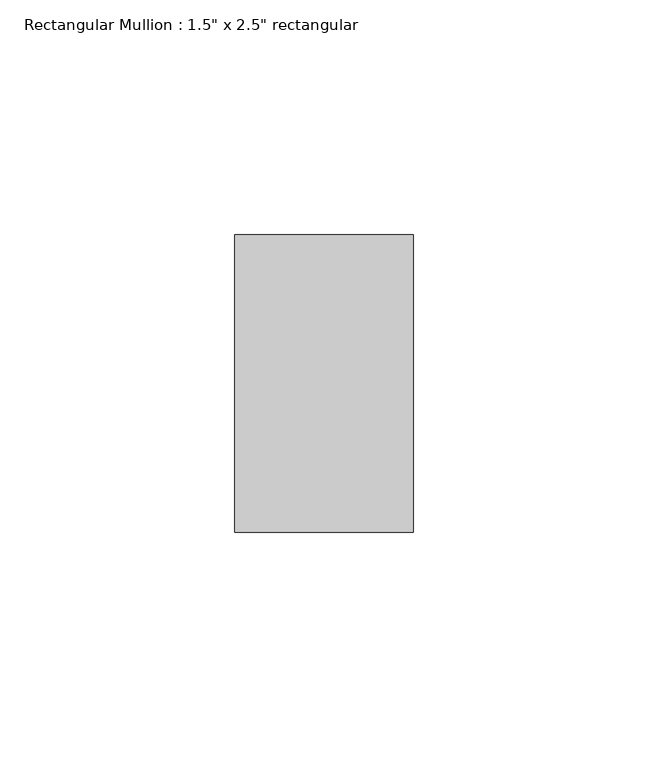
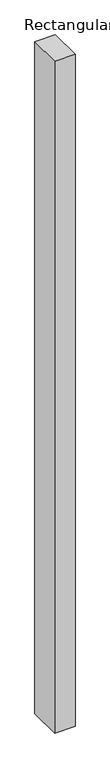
"""IFC4 building model written with IfcOpenShell, lengths in millimetres: member geometry."""

import ifcopenshell
import ifcopenshell.guid

model = None  # the IFC model being written
_history = None  # IfcOwnerHistory: only IFC2X3 demands one
_inside = {}  # id of a spatial element -> (the spatial element, [elements in it])
_under = {}  # id of a project, library or spatial element -> (it, [spatial elements below it])
_declared = {}  # id of a project -> (the project, [libraries it declares])
_typed = {}  # id of a type object -> (the type object, [elements of that type])
_made_of = {}  # id of a material, layer set ... -> (it, [elements and type objects made of it])


def new_model(schema):
    """Start an empty IFC model of exactly this schema.

    Asked for "IFC4X3", IfcOpenShell would pick the latest addendum, in which some entities
    have other attributes; the version numbers below select the first issue.
    IFC2X3 requires an IfcOwnerHistory on every rooted entity: one is made here for all.
    """
    global model, _history
    if schema == "IFC4X3":
        model = ifcopenshell.file(schema_version=(4, 3, 0, 0))
    else:
        model = ifcopenshell.file(schema=schema)
    _inside.clear()
    _under.clear()
    _declared.clear()
    _typed.clear()
    _made_of.clear()
    _history = None
    if model.schema == "IFC2X3":
        org = make("IfcOrganization", Name="unknown")
        user = make(
            "IfcPersonAndOrganization",
            ThePerson=make("IfcPerson", FamilyName="unknown"),
            TheOrganization=org,
        )
        app = make(
            "IfcApplication",
            ApplicationDeveloper=org,
            Version="unknown",
            ApplicationFullName="unknown",
            ApplicationIdentifier="unknown",
        )
        _history = make(
            "IfcOwnerHistory",
            OwningUser=user,
            OwningApplication=app,
            ChangeAction="ADDED",
            CreationDate=0,
        )
    return model


def make(cls, **values):
    """One entity of the class cls with the attributes given. An attribute that is None is left unset."""
    return model.create_entity(
        cls, **{name: value for name, value in values.items() if value is not None}
    )


def rooted(cls, **values):
    """An entity with a GlobalId (a new one), such as an element, a storey or a relation."""
    return make(cls, GlobalId=ifcopenshell.guid.new(), OwnerHistory=_history, **values)


def si_unit(unit_type, name, prefix=None):
    """IfcSIUnit, for example si_unit("LENGTHUNIT", "METRE", prefix="MILLI")."""
    return make("IfcSIUnit", UnitType=unit_type, Prefix=prefix, Name=name)


def assignment(units):
    """IfcUnitAssignment: the units of a project."""
    return None if units is None else make("IfcUnitAssignment", Units=units)


def point(xyz):
    """IfcCartesianPoint."""
    return None if xyz is None else make("IfcCartesianPoint", Coordinates=xyz)


def direction(xyz):
    """IfcDirection."""
    return None if xyz is None else make("IfcDirection", DirectionRatios=xyz)


def frame(location, z_axis=None, x_axis=None):
    """IfcAxis2Placement3D, a coordinate frame: its origin and axes. An axis left out is left unset."""
    return make(
        "IfcAxis2Placement3D",
        Location=point(location),
        Axis=direction(z_axis),
        RefDirection=direction(x_axis),
    )


def origin():
    """The frame at (0, 0, 0) with its axes left unset."""
    return frame((0.0, 0.0, 0.0))


def place(relative_to, where):
    """IfcLocalPlacement: puts the frame where relative to a parent placement (None: the world)."""
    return make(
        "IfcLocalPlacement", PlacementRelTo=relative_to, RelativePlacement=where
    )


def context(
    kind, dimensions, precision=None, world=None, true_north=None, identifier=None
):
    """IfcGeometricRepresentationContext, for example the 3D "Model" context."""
    return make(
        "IfcGeometricRepresentationContext",
        ContextIdentifier=identifier,
        ContextType=kind,
        CoordinateSpaceDimension=dimensions,
        Precision=precision,
        WorldCoordinateSystem=world,
        TrueNorth=true_north,
    )


def project(units=None, contexts=None):
    """IfcProject with its units and contexts."""
    return rooted(
        "IfcProject",
        Name="project",
        RepresentationContexts=contexts,
        UnitsInContext=assignment(units),
    )


def spatial(cls, under=None, at=None, **own):
    """A site, building, storey or space (cls), placed at a placement, below another one or the project."""
    s = rooted(cls, ObjectPlacement=at, **own)
    if under is not None:
        _under.setdefault(under.id(), (under, []))[1].append(s)
    return s


def polyline(points):
    """IfcPolyline through the points."""
    return make("IfcPolyline", Points=[point(p) for p in points])


def outline(outer, holes=None, kind="AREA"):
    """IfcArbitraryClosedProfileDef: a profile drawn as a closed curve; with holes, ...WithVoids."""
    if holes is None:
        return make("IfcArbitraryClosedProfileDef", ProfileType=kind, OuterCurve=outer)
    return make(
        "IfcArbitraryProfileDefWithVoids",
        ProfileType=kind,
        OuterCurve=outer,
        InnerCurves=holes,
    )


def extrude(swept, where, along, depth):
    """IfcExtrudedAreaSolid: the profile swept, set in the frame where, extruded along a direction by depth."""
    return make(
        "IfcExtrudedAreaSolid",
        SweptArea=swept,
        Position=where,
        ExtrudedDirection=direction(along),
        Depth=depth,
    )


def shape(context_of_items, identifier, shape_type, items):
    """IfcShapeRepresentation: the items that make up one representation, for example the "Body"."""
    return make(
        "IfcShapeRepresentation",
        ContextOfItems=context_of_items,
        RepresentationIdentifier=identifier,
        RepresentationType=shape_type,
        Items=items,
    )


def source(mapping_origin, context_of_items, identifier, shape_type, items):
    """IfcRepresentationMap: a shape defined once, which mapped items show again and again."""
    return make(
        "IfcRepresentationMap",
        MappingOrigin=mapping_origin,
        MappedRepresentation=shape(context_of_items, identifier, shape_type, items),
    )


def transform(
    local_origin,
    x_axis=None,
    y_axis=None,
    z_axis=None,
    scale=None,
    scale2=None,
    scale3=None,
    uniform=True,
):
    """IfcCartesianTransformationOperator3D, or its non-uniform kind. x_axis, y_axis, z_axis: its Axis1, 2, 3."""
    if uniform:
        return make(
            "IfcCartesianTransformationOperator3D",
            Axis1=direction(x_axis),
            Axis2=direction(y_axis),
            LocalOrigin=point(local_origin),
            Scale=scale,
            Axis3=direction(z_axis),
        )
    return make(
        "IfcCartesianTransformationOperator3DnonUniform",
        Axis1=direction(x_axis),
        Axis2=direction(y_axis),
        LocalOrigin=point(local_origin),
        Scale=scale,
        Axis3=direction(z_axis),
        Scale2=scale2,
        Scale3=scale3,
    )


def mapped(mapping_source, mapping_target):
    """IfcMappedItem: shows the shape of a source again, moved by a transform."""
    return make(
        "IfcMappedItem", MappingSource=mapping_source, MappingTarget=mapping_target
    )


def made_of(thing, what):
    """Note that an element or type object is made of a material, layer set ...; save() writes the relation."""
    if what is not None:
        _made_of.setdefault(what.id(), (what, []))[1].append(thing)
    return thing


def element(
    cls,
    number,
    at=None,
    inside=None,
    cuts=None,
    type_object=None,
    material=None,
    context=None,
    identifier="Body",
    shape_type=None,
    held_by="IfcProductDefinitionShape",
    body=None,
    shapes=None,
    **own,
):
    """One element of the class cls, such as IfcWall. Its Tag is "e" and its number.

    at: its placement. inside: the storey or other place that contains it. cuts: it is an
    opening in that element (IfcRelVoidsElement). A single representation is given by context,
    identifier, shape_type and body (its items); several are given by shapes. held_by: the class
    of the entity that holds the representations. save() writes the other relations.
    """
    e = rooted(cls, Tag="e%d" % number, ObjectPlacement=at, **own)
    if body is not None:
        shapes = [shape(context, identifier, shape_type, body)]
    if shapes is not None:
        e.Representation = make(held_by, Representations=shapes)
    if inside is not None:
        _inside.setdefault(inside.id(), (inside, []))[1].append(e)
    if cuts is not None:
        rooted(
            "IfcRelVoidsElement", RelatingBuildingElement=cuts, RelatedOpeningElement=e
        )
    if type_object is not None:
        _typed.setdefault(type_object.id(), (type_object, []))[1].append(e)
    return made_of(e, material)


def aggregate(whole, parts):
    """IfcRelAggregates: a whole, such as a stair, and the parts it consists of."""
    return rooted("IfcRelAggregates", RelatingObject=whole, RelatedObjects=parts)


def save(model, path):
    """Write the relations noted so far, then the file.

    IfcRelAggregates (storeys below a building ...), IfcRelContainedInSpatialStructure (elements
    in a storey), IfcRelDefinesByType, IfcRelAssociatesMaterial and IfcRelDeclares: one each for
    every whole, place, type object, material and project.
    """
    for whole, parts in _under.values():
        aggregate(whole, parts)
    for where, things in _inside.values():
        rooted(
            "IfcRelContainedInSpatialStructure",
            RelatedElements=things,
            RelatingStructure=where,
        )
    for kind, things in _typed.values():
        rooted("IfcRelDefinesByType", RelatedObjects=things, RelatingType=kind)
    for what, things in _made_of.values():
        rooted("IfcRelAssociatesMaterial", RelatedObjects=things, RelatingMaterial=what)
    for by, libraries in _declared.values():
        rooted("IfcRelDeclares", RelatingContext=by, RelatedDefinitions=libraries)
    model.write(path)


def member_e7d80e20(model_context):
    return source(origin(), model_context, "Body", "SweptSolid", [
        extrude(outline(polyline([(0.0, 31.75), (0.0, -31.75), (-38.1, -31.75), (-38.1, 31.75), (0.0, 31.75)])), frame((0.0, 0.0, -1322.0661325), z_axis=(0.0, 0.0, 1.0), x_axis=(1.0, 0.0, 0.0)), (0.0, 0.0, 1.0), 1322.0661325),
    ])


if __name__ == "__main__":
    model = new_model("IFC4")
    model_context = context("Model", 3, world=origin())
    ifc_project = project(units=[si_unit("LENGTHUNIT", "METRE", prefix="MILLI")], contexts=[model_context])
    site = spatial("IfcSite", under=ifc_project)
    building = spatial("IfcBuilding", under=site)
    placement = place(None, origin())
    member_shape = member_e7d80e20(model_context)
    element("IfcMember", 1, ObjectType="Rectangular Mullion : 1.5\" x 2.5\" rectangular", at=placement, inside=building, context=model_context, shape_type="MappedRepresentation", body=[
        mapped(member_shape, transform((0.0, 0.0, 0.0), x_axis=(1.0, 0.0, 0.0), y_axis=(0.0, 1.0, 0.0), z_axis=(0.0, 0.0, 1.0))),
    ])
    save(model, "model.ifc")
